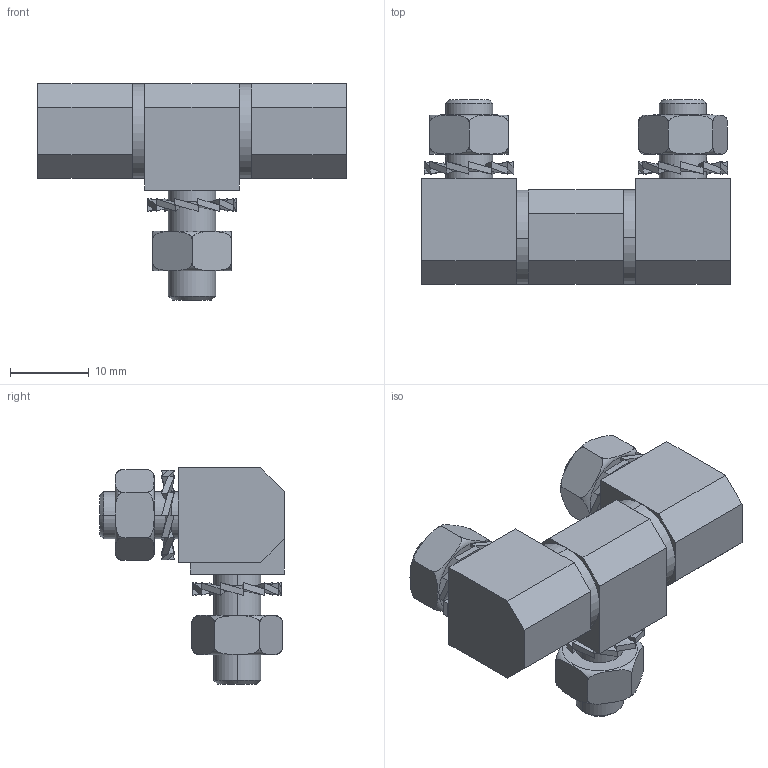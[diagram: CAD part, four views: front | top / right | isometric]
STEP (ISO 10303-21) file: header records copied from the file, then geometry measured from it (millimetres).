
FILE_DESCRIPTION (( 'STEP AP214' ), '1' );
FILE_NAME ('3.STZH3.001.STEP', '2009-12-04T08:38:43', ( '£ukaszC' ), ( '' ), 'SwSTEP 2.0', 'SolidWorks 2008', '' );
FILE_SCHEMA (( 'AUTOMOTIVE_DESIGN' ));
Length unit declared in the file: millimetre
Products named in the file (7): 3.STZH3.001.01_gwint; 3A.StZH3.05.00.00_Domyœlna; M6_M8-1.25; 3A.StZH3.03.00.00(sworzen17)_Domyœlna; 3A.StZH3.06.00.00_Domyœlna; 3.STZH3.001; 3A.StZH3.02.00.00-tech_gwint
Assembly tree (12 placements, depth 2):
  3.STZH3.001
    3.STZH3.001.01_gwint  x2
    3A.StZH3.05.00.00_Domyœlna  x3
    M6_M8-1.25  x3
    3A.StZH3.06.00.00_Domyœlna  x2
    3A.StZH3.03.00.00(sworzen17)_Domyœlna
    3A.StZH3.02.00.00-tech_gwint
Bounding box: 39.2 x 23.5 x 27.5 mm (x, y, z)
Volume: 7759 mm3; surface area: 6672.4 mm2
Topology: 12 solids, 12 shells, 422 faces, 1415 edges, 946 vertices
Faces by surface type: plane 171, bspline 144, cylinder 73, cone 22, torus 12
Entity records: 6613 total; most frequent: CARTESIAN_POINT 1907, ORIENTED_EDGE 1050, DIRECTION 763, EDGE_CURVE 525, VERTEX_POINT 349, VECTOR 329, LINE 329, AXIS2_PLACEMENT_3D 217
